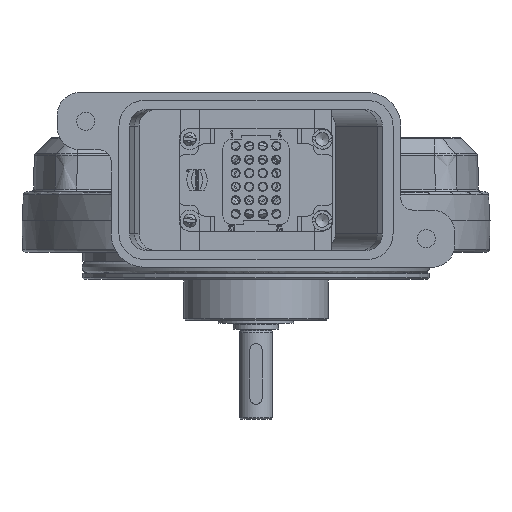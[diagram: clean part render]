
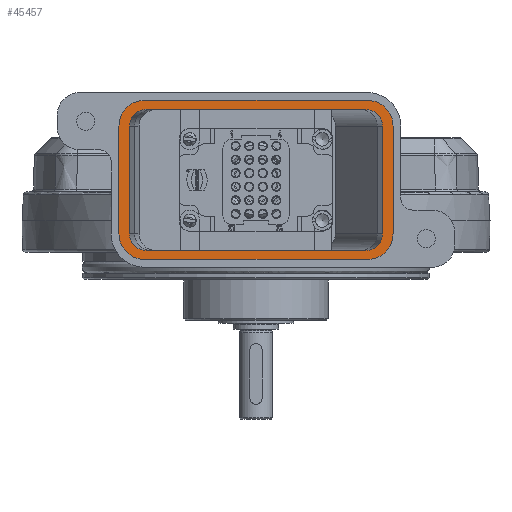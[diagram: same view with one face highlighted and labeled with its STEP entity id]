
A CAD part, front view. The second image highlights one B-rep face of the part: STEP entity #45457.
In plain terms, the highlighted planar face has unit normal (0, -1, 0).
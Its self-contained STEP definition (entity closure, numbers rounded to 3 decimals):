
#659=PLANE('',#47581);
#1686=ELLIPSE('',#47573,5.508,5.5);
#1688=ELLIPSE('',#47576,5.508,5.5);
#1690=ELLIPSE('',#47579,5.508,5.5);
#1692=ELLIPSE('',#47582,5.508,5.5);
#1807=B_SPLINE_CURVE_WITH_KNOTS('',3,(#62224,#62225,#62226,#62227,#62228,
#62229,#62230),.UNSPECIFIED.,.F.,.F.,(4,1,1,1,4),(0.,0.399,0.798,
1.197,1.596),.QUASI_UNIFORM_KNOTS.);
#1808=B_SPLINE_CURVE_WITH_KNOTS('',3,(#62247,#62248,#62249,#62250,#62251,
#62252,#62253),.UNSPECIFIED.,.F.,.F.,(4,1,1,1,4),(0.,0.399,0.798,
1.197,1.596),.QUASI_UNIFORM_KNOTS.);
#1809=B_SPLINE_CURVE_WITH_KNOTS('',3,(#62270,#62271,#62272,#62273,#62274,
#62275,#62276),.UNSPECIFIED.,.F.,.F.,(4,1,1,1,4),(0.,0.399,0.798,
1.197,1.596),.QUASI_UNIFORM_KNOTS.);
#1810=B_SPLINE_CURVE_WITH_KNOTS('',3,(#62293,#62294,#62295,#62296,#62297,
#62298,#62299),.UNSPECIFIED.,.F.,.F.,(4,1,1,1,4),(0.,0.399,0.798,
1.197,1.596),.QUASI_UNIFORM_KNOTS.);
#2923=LINE('',#62211,#5916);
#2926=LINE('',#62234,#5919);
#2929=LINE('',#62257,#5922);
#2932=LINE('',#62280,#5925);
#2934=LINE('',#62301,#5927);
#2940=LINE('',#62315,#5933);
#2948=LINE('',#62343,#5941);
#2949=LINE('',#62346,#5942);
#5916=VECTOR('',#52005,1000.);
#5919=VECTOR('',#52010,1000.);
#5922=VECTOR('',#52015,1000.);
#5925=VECTOR('',#52020,1000.);
#5927=VECTOR('',#52024,1000.);
#5933=VECTOR('',#52032,1000.);
#5941=VECTOR('',#52062,1000.);
#5942=VECTOR('',#52065,1000.);
#10466=ORIENTED_EDGE('',*,*,#18496,.F.);
#10467=ORIENTED_EDGE('',*,*,#18494,.F.);
#10468=ORIENTED_EDGE('',*,*,#18492,.F.);
#10469=ORIENTED_EDGE('',*,*,#18490,.F.);
#10470=ORIENTED_EDGE('',*,*,#18488,.F.);
#10471=ORIENTED_EDGE('',*,*,#18486,.F.);
#10472=ORIENTED_EDGE('',*,*,#18484,.F.);
#10473=ORIENTED_EDGE('',*,*,#18482,.T.);
#10474=ORIENTED_EDGE('',*,*,#18503,.F.);
#10475=ORIENTED_EDGE('',*,*,#18515,.F.);
#10476=ORIENTED_EDGE('',*,*,#18517,.F.);
#10477=ORIENTED_EDGE('',*,*,#18518,.F.);
#10478=ORIENTED_EDGE('',*,*,#18497,.F.);
#10479=ORIENTED_EDGE('',*,*,#18509,.F.);
#10480=ORIENTED_EDGE('',*,*,#18519,.F.);
#10481=ORIENTED_EDGE('',*,*,#18511,.F.);
#18482=EDGE_CURVE('',#22714,#22713,#2923,.T.);
#18484=EDGE_CURVE('',#22714,#22715,#1807,.T.);
#18486=EDGE_CURVE('',#22715,#22716,#2926,.T.);
#18488=EDGE_CURVE('',#22716,#22717,#1808,.T.);
#18490=EDGE_CURVE('',#22717,#22718,#2929,.T.);
#18492=EDGE_CURVE('',#22718,#22719,#1809,.T.);
#18494=EDGE_CURVE('',#22719,#22720,#2932,.T.);
#18496=EDGE_CURVE('',#22720,#22713,#1810,.T.);
#18497=EDGE_CURVE('',#22721,#22722,#2934,.T.);
#18503=EDGE_CURVE('',#22727,#22728,#2940,.T.);
#18509=EDGE_CURVE('',#22732,#22721,#1686,.F.);
#18511=EDGE_CURVE('',#22728,#22733,#1688,.F.);
#18515=EDGE_CURVE('',#22736,#22727,#1690,.F.);
#18517=EDGE_CURVE('',#22737,#22736,#2948,.T.);
#18518=EDGE_CURVE('',#22722,#22737,#1692,.F.);
#18519=EDGE_CURVE('',#22733,#22732,#2949,.T.);
#22713=VERTEX_POINT('',#62210);
#22714=VERTEX_POINT('',#62212);
#22715=VERTEX_POINT('',#62231);
#22716=VERTEX_POINT('',#62235);
#22717=VERTEX_POINT('',#62254);
#22718=VERTEX_POINT('',#62258);
#22719=VERTEX_POINT('',#62277);
#22720=VERTEX_POINT('',#62281);
#22721=VERTEX_POINT('',#62302);
#22722=VERTEX_POINT('',#62303);
#22727=VERTEX_POINT('',#62314);
#22728=VERTEX_POINT('',#62316);
#22732=VERTEX_POINT('',#62327);
#22733=VERTEX_POINT('',#62332);
#22736=VERTEX_POINT('',#62339);
#22737=VERTEX_POINT('',#62344);
#26665=EDGE_LOOP('',(#10466,#10467,#10468,#10469,#10470,#10471,#10472,#10473));
#26666=EDGE_LOOP('',(#10474,#10475,#10476,#10477,#10478,#10479,#10480,#10481));
#29106=FACE_BOUND('',#26665,.T.);
#29107=FACE_BOUND('',#26666,.T.);
#45457=ADVANCED_FACE('',(#29106,#29107),#659,.F.);
#47573=AXIS2_PLACEMENT_3D('',#62328,#52042,#52043);
#47576=AXIS2_PLACEMENT_3D('',#62331,#52048,#52049);
#47579=AXIS2_PLACEMENT_3D('',#62340,#52056,#52057);
#47581=AXIS2_PLACEMENT_3D('',#62342,#52060,#52061);
#47582=AXIS2_PLACEMENT_3D('',#62345,#52063,#52064);
#52005=DIRECTION('',(1.,0.,0.));
#52010=DIRECTION('',(0.,0.,1.));
#52015=DIRECTION('',(1.,0.,0.));
#52020=DIRECTION('',(0.,0.,-1.));
#52024=DIRECTION('',(0.,0.,1.));
#52032=DIRECTION('',(0.,0.,-1.));
#52042=DIRECTION('',(0.,1.,0.));
#52043=DIRECTION('',(1.,0.,0.));
#52048=DIRECTION('',(0.,1.,0.));
#52049=DIRECTION('',(-1.,0.,0.));
#52056=DIRECTION('',(0.,1.,0.));
#52057=DIRECTION('',(-1.,0.,0.));
#52060=DIRECTION('',(0.,1.,0.));
#52061=DIRECTION('',(-1.,0.,0.));
#52062=DIRECTION('',(-1.,0.,0.));
#52063=DIRECTION('',(0.,1.,0.));
#52064=DIRECTION('',(-1.,0.,0.));
#52065=DIRECTION('',(1.,0.,0.));
#62210=CARTESIAN_POINT('',(37.,-455.5,-2.4));
#62211=CARTESIAN_POINT('',(0.,-455.5,-2.4));
#62212=CARTESIAN_POINT('',(-37.,-455.5,-2.4));
#62224=CARTESIAN_POINT('',(-37.,-455.5,-2.4));
#62225=CARTESIAN_POINT('',(-38.113,-455.5,-2.4));
#62226=CARTESIAN_POINT('',(-40.338,-455.5,-1.957));
#62227=CARTESIAN_POINT('',(-43.167,-455.5,-0.067));
#62228=CARTESIAN_POINT('',(-45.058,-455.5,2.762));
#62229=CARTESIAN_POINT('',(-45.5,-455.5,4.987));
#62230=CARTESIAN_POINT('',(-45.5,-455.5,6.1));
#62231=CARTESIAN_POINT('',(-45.5,-455.5,6.1));
#62234=CARTESIAN_POINT('',(-45.5,-455.5,24.));
#62235=CARTESIAN_POINT('',(-45.5,-455.5,41.9));
#62247=CARTESIAN_POINT('',(-45.5,-455.5,41.9));
#62248=CARTESIAN_POINT('',(-45.5,-455.5,43.013));
#62249=CARTESIAN_POINT('',(-45.057,-455.5,45.238));
#62250=CARTESIAN_POINT('',(-43.167,-455.5,48.067));
#62251=CARTESIAN_POINT('',(-40.338,-455.5,49.958));
#62252=CARTESIAN_POINT('',(-38.113,-455.5,50.4));
#62253=CARTESIAN_POINT('',(-37.,-455.5,50.4));
#62254=CARTESIAN_POINT('',(-37.,-455.5,50.4));
#62257=CARTESIAN_POINT('',(0.,-455.5,50.4));
#62258=CARTESIAN_POINT('',(37.,-455.5,50.4));
#62270=CARTESIAN_POINT('',(37.,-455.5,50.4));
#62271=CARTESIAN_POINT('',(38.113,-455.5,50.4));
#62272=CARTESIAN_POINT('',(40.338,-455.5,49.957));
#62273=CARTESIAN_POINT('',(43.167,-455.5,48.067));
#62274=CARTESIAN_POINT('',(45.058,-455.5,45.238));
#62275=CARTESIAN_POINT('',(45.5,-455.5,43.013));
#62276=CARTESIAN_POINT('',(45.5,-455.5,41.9));
#62277=CARTESIAN_POINT('',(45.5,-455.5,41.9));
#62280=CARTESIAN_POINT('',(45.5,-455.5,24.));
#62281=CARTESIAN_POINT('',(45.5,-455.5,6.1));
#62293=CARTESIAN_POINT('',(45.5,-455.5,6.1));
#62294=CARTESIAN_POINT('',(45.5,-455.5,4.987));
#62295=CARTESIAN_POINT('',(45.057,-455.5,2.762));
#62296=CARTESIAN_POINT('',(43.167,-455.5,-0.067));
#62297=CARTESIAN_POINT('',(40.338,-455.5,-1.958));
#62298=CARTESIAN_POINT('',(38.113,-455.5,-2.4));
#62299=CARTESIAN_POINT('',(37.,-455.5,-2.4));
#62301=CARTESIAN_POINT('',(42.,-455.5,24.));
#62302=CARTESIAN_POINT('',(42.,-455.5,6.1));
#62303=CARTESIAN_POINT('',(42.,-455.5,41.9));
#62314=CARTESIAN_POINT('',(-42.,-455.5,41.9));
#62315=CARTESIAN_POINT('',(-42.,-455.5,24.));
#62316=CARTESIAN_POINT('',(-42.,-455.5,6.1));
#62327=CARTESIAN_POINT('',(36.492,-455.5,0.6));
#62328=CARTESIAN_POINT('',(36.492,-455.5,6.1));
#62331=CARTESIAN_POINT('',(-36.492,-455.5,6.1));
#62332=CARTESIAN_POINT('',(-36.492,-455.5,0.6));
#62339=CARTESIAN_POINT('',(-36.492,-455.5,47.4));
#62340=CARTESIAN_POINT('',(-36.492,-455.5,41.9));
#62342=CARTESIAN_POINT('',(50.05,-455.5,-5.04));
#62343=CARTESIAN_POINT('',(0.,-455.5,47.4));
#62344=CARTESIAN_POINT('',(36.492,-455.5,47.4));
#62345=CARTESIAN_POINT('',(36.492,-455.5,41.9));
#62346=CARTESIAN_POINT('',(0.,-455.5,0.6));
